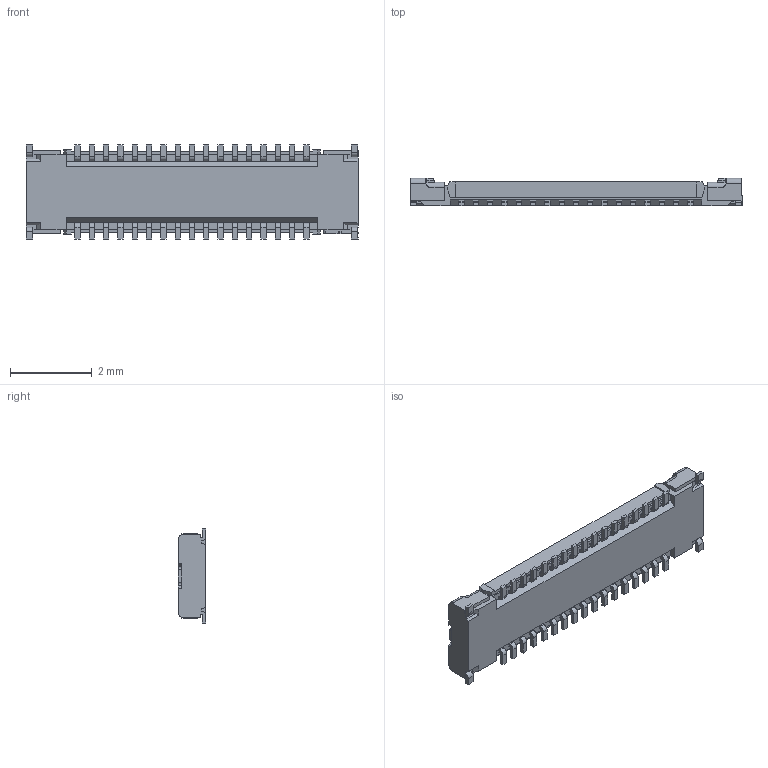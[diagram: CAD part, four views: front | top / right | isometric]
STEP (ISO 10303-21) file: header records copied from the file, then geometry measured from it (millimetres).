
FILE_DESCRIPTION (( 'STEP AP203' ), '1' );
FILE_NAME ('20709-034E-01C RECEPTACLE ASSY STEP R2 ALL.STEP', '2025-02-28T08:36:14', ( '' ), ( '' ), 'SwSTEP 2.0', 'SolidWorks 2023', '' );
FILE_SCHEMA (( 'CONFIG_CONTROL_DESIGN' ));
Length unit declared in the file: millimetre
Products named in the file (1): 20709-034E-01C RECEPTACLE ASSY STEP R2 ALL
Bounding box: 8.12 x 0.67 x 2.3 mm (x, y, z)
Volume: 6.5 mm3; surface area: 63.4 mm2
Topology: 1 solids, 1 shells, 578 faces, 1599 edges, 1054 vertices
Faces by surface type: plane 442, cylinder 128, sphere 4, bspline 4
Entity records: 18384 total; most frequent: CARTESIAN_POINT 3464, ORIENTED_EDGE 3190, DIRECTION 2941, EDGE_CURVE 1595, LINE 1303, VECTOR 1303, VERTEX_POINT 1054, AXIS2_PLACEMENT_3D 819
